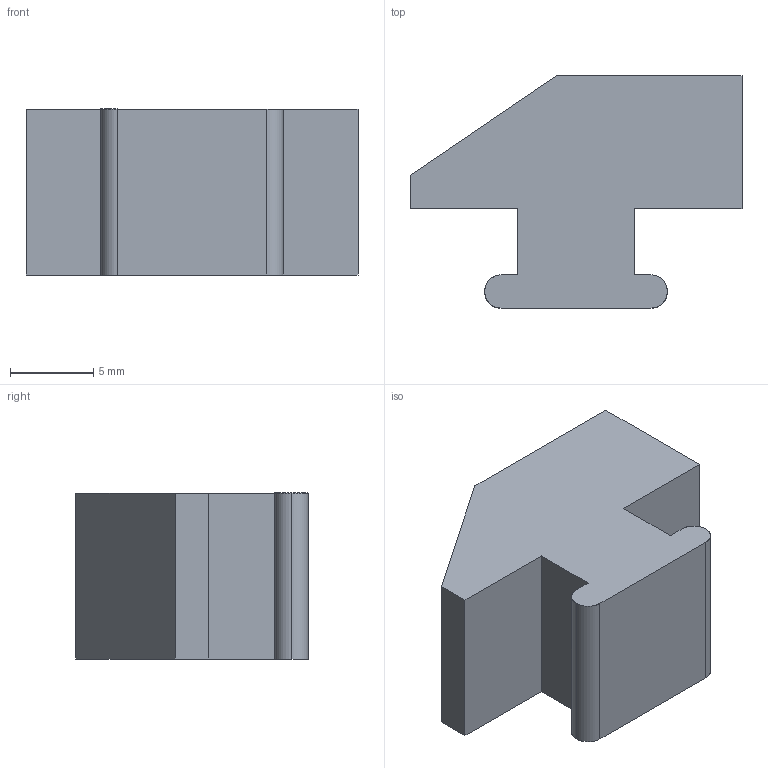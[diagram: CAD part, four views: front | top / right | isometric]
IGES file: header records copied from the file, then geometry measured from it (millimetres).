
Start section: SolidWorks IGES file using analytic representation for surfaces
Global section: file name: C:\Documents and Settings\URETIM3\Desktop\yeni katalog tolgay düzenli\E kataloðu\T200 PROFÝL ALPOLEN\206 YT2 001.IGS; native system: SolidWorks 2006 by SolidWorks Corporation; preprocessor: SolidWorks 2006 by SolidWorks Corporation; author: URETIM3; date: 060912.161631; units: millimetre
Bounding box: 20 x 14 x 10 mm (x, y, z)
Surface area: 1066.4 mm2 (no closed solid volume)
Topology: 0 solids, 0 shells, 16 faces, 142 edges, 142 vertices
Faces by surface type: bspline 13, revolution 3
